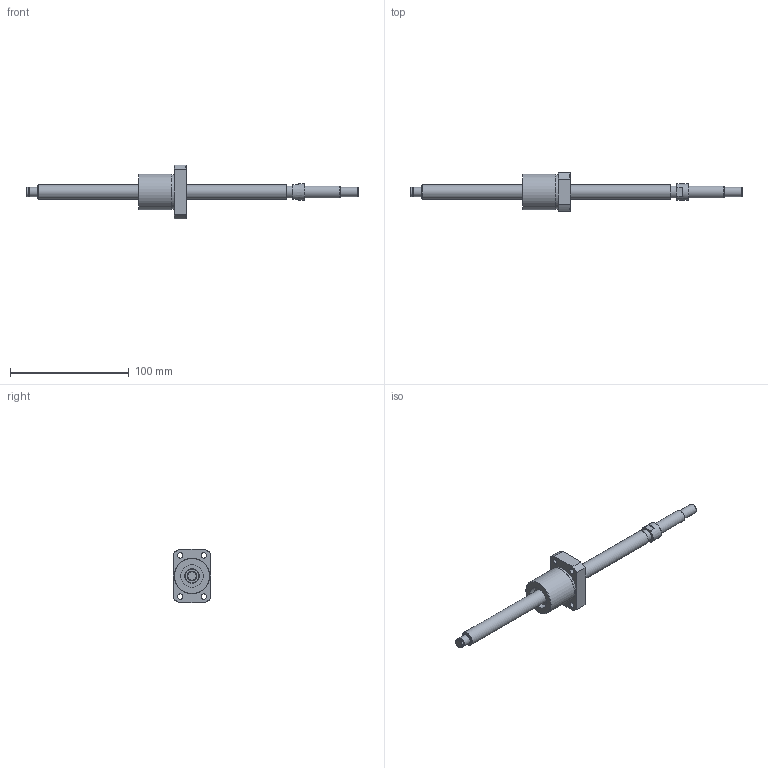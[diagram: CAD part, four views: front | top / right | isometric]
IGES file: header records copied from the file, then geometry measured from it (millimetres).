
Start section: Data from Parasolid IGES Translator 26.0.171, Copyright(c) 2006 Siemens PLM Software. All Rights Reserved.
Global section: file name: BNK1205-2.5RRG0+280LC5Y(1250).igs; native system: By Siemens PLM Incorporated; preprocessor: XPlus GENERIC/IGES 26.0.171; author: Noname; organization: Noname; date: 20240709.090919; units: millimetre
Bounding box: 280 x 32 x 45 mm (x, y, z)
Surface area: 19850.6 mm2 (no closed solid volume)
Topology: 0 solids, 0 shells, 76 faces, 323 edges, 277 vertices
Faces by surface type: revolution 47, extrusion 29
